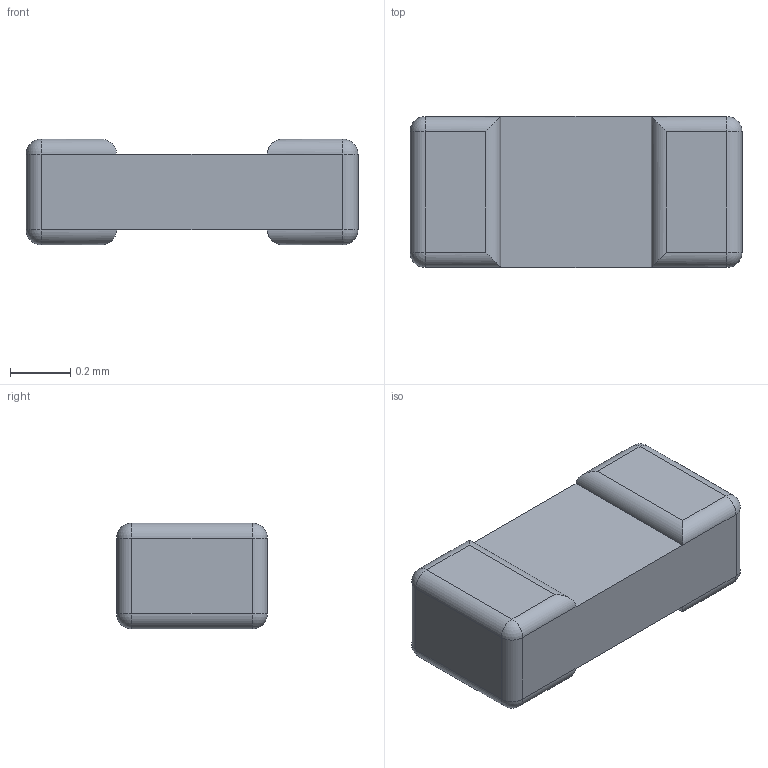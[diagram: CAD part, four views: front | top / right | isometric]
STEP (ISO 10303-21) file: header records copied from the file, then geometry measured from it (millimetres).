
FILE_DESCRIPTION(('Open CASCADE Model'),'2;1');
FILE_NAME('Open CASCADE Shape Model','2026-10-25T11:09:15',('Author'),( 'Open CASCADE'),'Open CASCADE STEP processor 8.0','Open CASCADE 8.0' ,'Unknown');
FILE_SCHEMA(('AUTOMOTIVE_DESIGN { 1 0 10303 214 1 1 1 1 }'));
Length unit declared in the file: millimetre
Products named in the file (1): Open CASCADE STEP translator 8.0 57
Bounding box: 1.1 x 0.5 x 0.35 mm (x, y, z)
Volume: 0.2 mm3; surface area: 2 mm2
Topology: 1 solids, 1 shells, 38 faces, 84 edges, 40 vertices
Faces by surface type: cylinder 20, plane 10, sphere 8
Entity records: 2606 total; most frequent: CARTESIAN_POINT 1051, DIRECTION 292, LINE 166, VECTOR 166, ORIENTED_EDGE 152, PCURVE 152, DEFINITIONAL_REPRESENTATION 152, EDGE_CURVE 76
